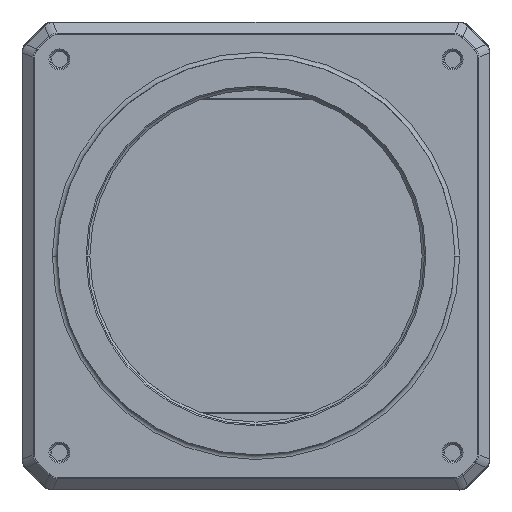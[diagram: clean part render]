
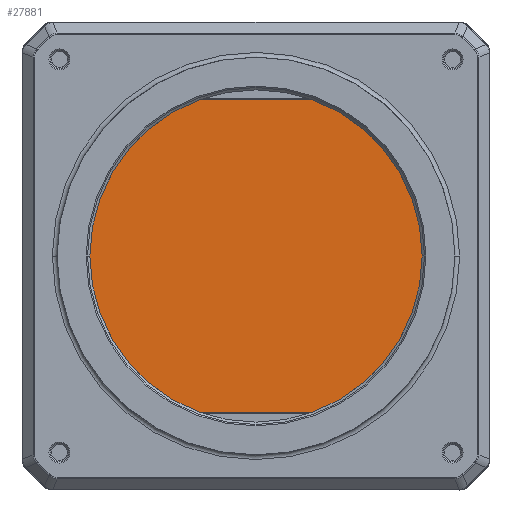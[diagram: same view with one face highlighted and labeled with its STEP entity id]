
A CAD part, left-side view. The second image highlights one B-rep face of the part: STEP entity #27881.
In plain terms, the highlighted planar face has unit normal (-1, 0, 0).
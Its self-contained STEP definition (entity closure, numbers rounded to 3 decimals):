
#5982=CARTESIAN_POINT('',(0.52,0.,0.));
#5983=DIRECTION('',(1.,0.,0.));
#5984=DIRECTION('',(0.,-1.,0.));
#5985=AXIS2_PLACEMENT_3D('',#5982,#5983,#5984);
#5987=DIRECTION('',(0.,1.,0.));
#5988=VECTOR('',#5987,24.333);
#5989=CARTESIAN_POINT('',(0.52,-12.167,-33.35));
#5990=LINE('',#5989,#5988);
#5991=CARTESIAN_POINT('',(0.52,0.,0.));
#5992=DIRECTION('',(1.,0.,0.));
#5993=DIRECTION('',(0.,0.343,-0.939));
#5994=AXIS2_PLACEMENT_3D('',#5991,#5992,#5993);
#5996=CARTESIAN_POINT('',(0.52,0.,0.));
#5997=DIRECTION('',(1.,0.,0.));
#5998=DIRECTION('',(0.,1.,0.));
#5999=AXIS2_PLACEMENT_3D('',#5996,#5997,#5998);
#6001=DIRECTION('',(0.,-1.,0.));
#6002=VECTOR('',#6001,24.333);
#6003=CARTESIAN_POINT('',(0.52,12.167,33.35));
#6004=LINE('',#6003,#6002);
#6005=CARTESIAN_POINT('',(0.52,0.,0.));
#6006=DIRECTION('',(1.,0.,0.));
#6007=DIRECTION('',(0.,-0.343,0.939));
#6008=AXIS2_PLACEMENT_3D('',#6005,#6006,#6007);
#18403=CARTESIAN_POINT('',(0.52,12.167,33.35));
#18404=VERTEX_POINT('',#18403);
#18405=CARTESIAN_POINT('',(0.52,-12.167,33.35));
#18406=VERTEX_POINT('',#18405);
#18407=CARTESIAN_POINT('',(0.52,-12.167,-33.35));
#18408=VERTEX_POINT('',#18407);
#18409=CARTESIAN_POINT('',(0.52,12.167,-33.35));
#18410=VERTEX_POINT('',#18409);
#18411=CARTESIAN_POINT('',(0.52,-35.5,0.));
#18412=VERTEX_POINT('',#18411);
#18413=CARTESIAN_POINT('',(0.52,35.5,0.));
#18414=VERTEX_POINT('',#18413);
#27865=CARTESIAN_POINT('',(0.52,0.,0.));
#27866=DIRECTION('',(1.,0.,0.));
#27867=DIRECTION('',(0.,0.,1.));
#27868=AXIS2_PLACEMENT_3D('',#27865,#27866,#27867);
#27869=PLANE('',#27868);
#27870=ORIENTED_EDGE('',*,*,#27766,.T.);
#27871=ORIENTED_EDGE('',*,*,#27860,.T.);
#27872=ORIENTED_EDGE('',*,*,#27773,.T.);
#27874=ORIENTED_EDGE('',*,*,#27873,.T.);
#27876=ORIENTED_EDGE('',*,*,#27875,.T.);
#27878=ORIENTED_EDGE('',*,*,#27877,.T.);
#27879=EDGE_LOOP('',(#27870,#27871,#27872,#27874,#27876,#27878));
#27880=FACE_OUTER_BOUND('',#27879,.F.);
#27881=ADVANCED_FACE('',(#27880),#27869,.F.);
#5986=CIRCLE('',#5985,35.5);
#5995=CIRCLE('',#5994,35.5);
#6000=CIRCLE('',#5999,35.5);
#6009=CIRCLE('',#6008,35.5);
#27766=EDGE_CURVE('',#18412,#18408,#5986,.T.);
#27773=EDGE_CURVE('',#18410,#18414,#5995,.T.);
#27860=EDGE_CURVE('',#18408,#18410,#5990,.T.);
#27873=EDGE_CURVE('',#18414,#18404,#6000,.T.);
#27875=EDGE_CURVE('',#18404,#18406,#6004,.T.);
#27877=EDGE_CURVE('',#18406,#18412,#6009,.T.);
